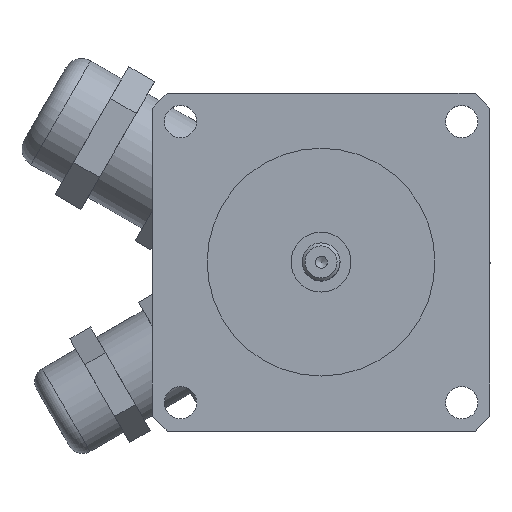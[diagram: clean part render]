
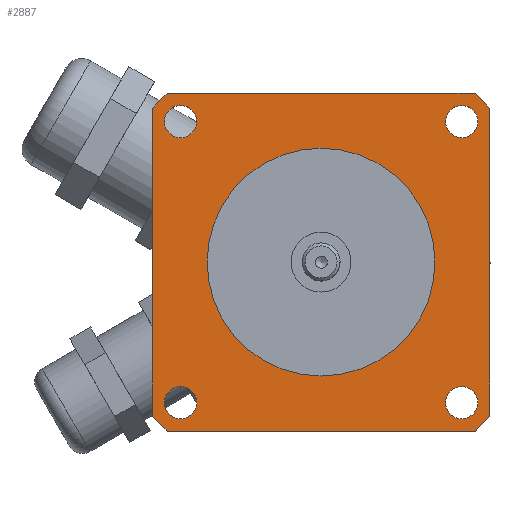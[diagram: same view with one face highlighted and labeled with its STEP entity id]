
A CAD part, top view. The second image highlights one B-rep face of the part: STEP entity #2887.
In plain terms, the highlighted planar face has unit normal (0, 0, 1).
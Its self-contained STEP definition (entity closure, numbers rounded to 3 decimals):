
#2491=CARTESIAN_POINT('',(19.05,0.,42.7));
#2492=VERTEX_POINT('',#2491);
#2493=CARTESIAN_POINT('',(0.,0.,42.7));
#2494=DIRECTION('',(0.0,0.0,-1.0));
#2495=DIRECTION('',(-1.0,0.0,0.0));
#2496=AXIS2_PLACEMENT_3D('',#2493,#2494,#2495);
#2497=CIRCLE('',#2496,19.05);
#2498=EDGE_CURVE('',#2492,#2492,#2497,.T.);
#2541=CARTESIAN_POINT('',(26.211,23.511,42.7));
#2542=VERTEX_POINT('',#2541);
#2543=CARTESIAN_POINT('',(23.511,23.511,42.7));
#2544=DIRECTION('',(0.0,0.0,-1.0));
#2545=DIRECTION('',(-1.0,0.0,0.0));
#2546=AXIS2_PLACEMENT_3D('',#2543,#2544,#2545);
#2547=CIRCLE('',#2546,2.7);
#2548=EDGE_CURVE('',#2542,#2542,#2547,.T.);
#2561=CARTESIAN_POINT('',(26.211,-23.511,42.7));
#2562=VERTEX_POINT('',#2561);
#2563=CARTESIAN_POINT('',(23.511,-23.511,42.7));
#2564=DIRECTION('',(0.0,0.0,-1.0));
#2565=DIRECTION('',(-1.0,0.0,0.0));
#2566=AXIS2_PLACEMENT_3D('',#2563,#2564,#2565);
#2567=CIRCLE('',#2566,2.7);
#2568=EDGE_CURVE('',#2562,#2562,#2567,.T.);
#2581=CARTESIAN_POINT('',(-20.811,23.511,42.7));
#2582=VERTEX_POINT('',#2581);
#2583=CARTESIAN_POINT('',(-23.511,23.511,42.7));
#2584=DIRECTION('',(0.0,0.0,-1.0));
#2585=DIRECTION('',(-1.0,0.0,0.0));
#2586=AXIS2_PLACEMENT_3D('',#2583,#2584,#2585);
#2587=CIRCLE('',#2586,2.7);
#2588=EDGE_CURVE('',#2582,#2582,#2587,.T.);
#2601=CARTESIAN_POINT('',(-20.811,-23.511,42.7));
#2602=VERTEX_POINT('',#2601);
#2603=CARTESIAN_POINT('',(-23.511,-23.511,42.7));
#2604=DIRECTION('',(0.0,0.0,-1.0));
#2605=DIRECTION('',(-1.0,0.0,0.0));
#2606=AXIS2_PLACEMENT_3D('',#2603,#2604,#2605);
#2607=CIRCLE('',#2606,2.7);
#2608=EDGE_CURVE('',#2602,#2602,#2607,.T.);
#2621=CARTESIAN_POINT('',(25.75,28.25,42.7));
#2622=VERTEX_POINT('',#2621);
#2623=CARTESIAN_POINT('',(28.25,25.75,42.7));
#2624=VERTEX_POINT('',#2623);
#2625=CARTESIAN_POINT('',(25.75,28.25,42.7));
#2626=DIRECTION('',(0.707,-0.707,0.0));
#2627=VECTOR('',#2626,3.536);
#2628=LINE('',#2625,#2627);
#2629=EDGE_CURVE('',#2622,#2624,#2628,.T.);
#2652=CARTESIAN_POINT('',(28.25,-25.75,42.7));
#2653=VERTEX_POINT('',#2652);
#2654=CARTESIAN_POINT('',(28.25,25.75,42.7));
#2655=DIRECTION('',(0.0,-1.0,0.0));
#2656=VECTOR('',#2655,51.5);
#2657=LINE('',#2654,#2656);
#2658=EDGE_CURVE('',#2624,#2653,#2657,.T.);
#2692=CARTESIAN_POINT('',(25.75,-28.25,42.7));
#2693=VERTEX_POINT('',#2692);
#2694=CARTESIAN_POINT('',(28.25,-25.75,42.7));
#2695=DIRECTION('',(-0.707,-0.707,0.0));
#2696=VECTOR('',#2695,3.536);
#2697=LINE('',#2694,#2696);
#2698=EDGE_CURVE('',#2653,#2693,#2697,.T.);
#2716=CARTESIAN_POINT('',(-25.75,-28.25,42.7));
#2717=VERTEX_POINT('',#2716);
#2718=CARTESIAN_POINT('',(25.75,-28.25,42.7));
#2719=DIRECTION('',(-1.0,0.0,0.0));
#2720=VECTOR('',#2719,51.5);
#2721=LINE('',#2718,#2720);
#2722=EDGE_CURVE('',#2693,#2717,#2721,.T.);
#2747=CARTESIAN_POINT('',(-28.25,-25.75,42.7));
#2748=VERTEX_POINT('',#2747);
#2749=CARTESIAN_POINT('',(-25.75,-28.25,42.7));
#2750=DIRECTION('',(-0.707,0.707,0.0));
#2751=VECTOR('',#2750,3.536);
#2752=LINE('',#2749,#2751);
#2753=EDGE_CURVE('',#2717,#2748,#2752,.T.);
#2771=CARTESIAN_POINT('',(-28.25,25.75,42.7));
#2772=VERTEX_POINT('',#2771);
#2773=CARTESIAN_POINT('',(-28.25,-25.75,42.7));
#2774=DIRECTION('',(0.0,1.0,0.0));
#2775=VECTOR('',#2774,51.5);
#2776=LINE('',#2773,#2775);
#2777=EDGE_CURVE('',#2748,#2772,#2776,.T.);
#2802=CARTESIAN_POINT('',(-25.75,28.25,42.7));
#2803=VERTEX_POINT('',#2802);
#2804=CARTESIAN_POINT('',(-28.25,25.75,42.7));
#2805=DIRECTION('',(0.707,0.707,0.0));
#2806=VECTOR('',#2805,3.536);
#2807=LINE('',#2804,#2806);
#2808=EDGE_CURVE('',#2772,#2803,#2807,.T.);
#2826=CARTESIAN_POINT('',(-25.75,28.25,42.7));
#2827=DIRECTION('',(1.0,0.0,0.0));
#2828=VECTOR('',#2827,51.5);
#2829=LINE('',#2826,#2828);
#2830=EDGE_CURVE('',#2803,#2622,#2829,.T.);
#2857=CARTESIAN_POINT('',(0.,0.,42.7));
#2858=DIRECTION('',(0.0,0.0,1.0));
#2859=DIRECTION('',(1.0,0.0,0.0));
#2860=AXIS2_PLACEMENT_3D('',#2857,#2858,#2859);
#2861=PLANE('',#2860);
#2862=ORIENTED_EDGE('',*,*,#2629,.F.);
#2863=ORIENTED_EDGE('',*,*,#2830,.F.);
#2864=ORIENTED_EDGE('',*,*,#2808,.F.);
#2865=ORIENTED_EDGE('',*,*,#2777,.F.);
#2866=ORIENTED_EDGE('',*,*,#2753,.F.);
#2867=ORIENTED_EDGE('',*,*,#2722,.F.);
#2868=ORIENTED_EDGE('',*,*,#2698,.F.);
#2869=ORIENTED_EDGE('',*,*,#2658,.F.);
#2870=EDGE_LOOP('',(#2862,#2863,#2864,#2865,#2866,#2867,#2868,#2869));
#2871=FACE_OUTER_BOUND('',#2870,.T.);
#2872=ORIENTED_EDGE('',*,*,#2498,.T.);
#2873=EDGE_LOOP('',(#2872));
#2874=FACE_BOUND('',#2873,.T.);
#2875=ORIENTED_EDGE('',*,*,#2548,.T.);
#2876=EDGE_LOOP('',(#2875));
#2877=FACE_BOUND('',#2876,.T.);
#2878=ORIENTED_EDGE('',*,*,#2568,.T.);
#2879=EDGE_LOOP('',(#2878));
#2880=FACE_BOUND('',#2879,.T.);
#2881=ORIENTED_EDGE('',*,*,#2588,.T.);
#2882=EDGE_LOOP('',(#2881));
#2883=FACE_BOUND('',#2882,.T.);
#2884=ORIENTED_EDGE('',*,*,#2608,.T.);
#2885=EDGE_LOOP('',(#2884));
#2886=FACE_BOUND('',#2885,.T.);
#2887=ADVANCED_FACE('',(#2871,#2874,#2877,#2880,#2883,#2886),#2861,.T.);
